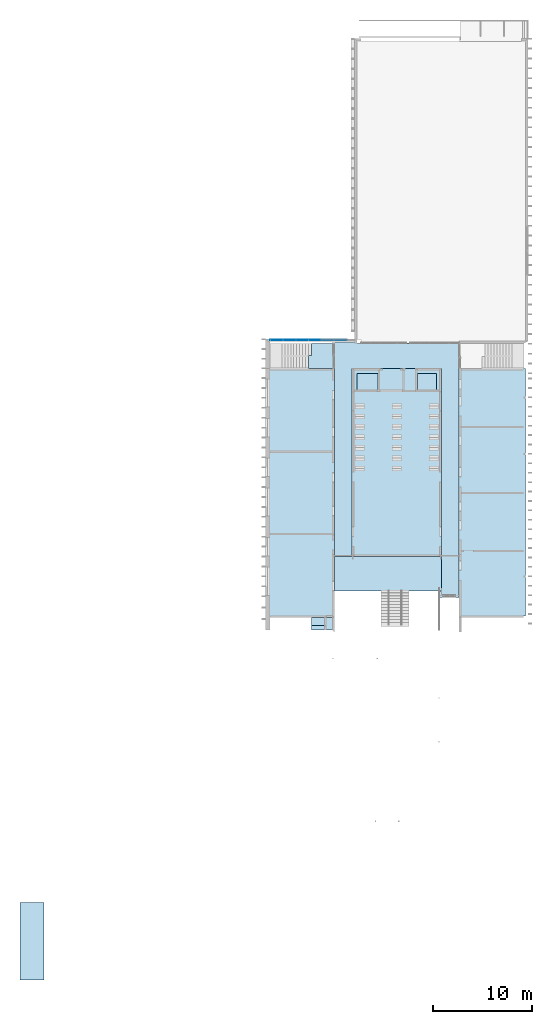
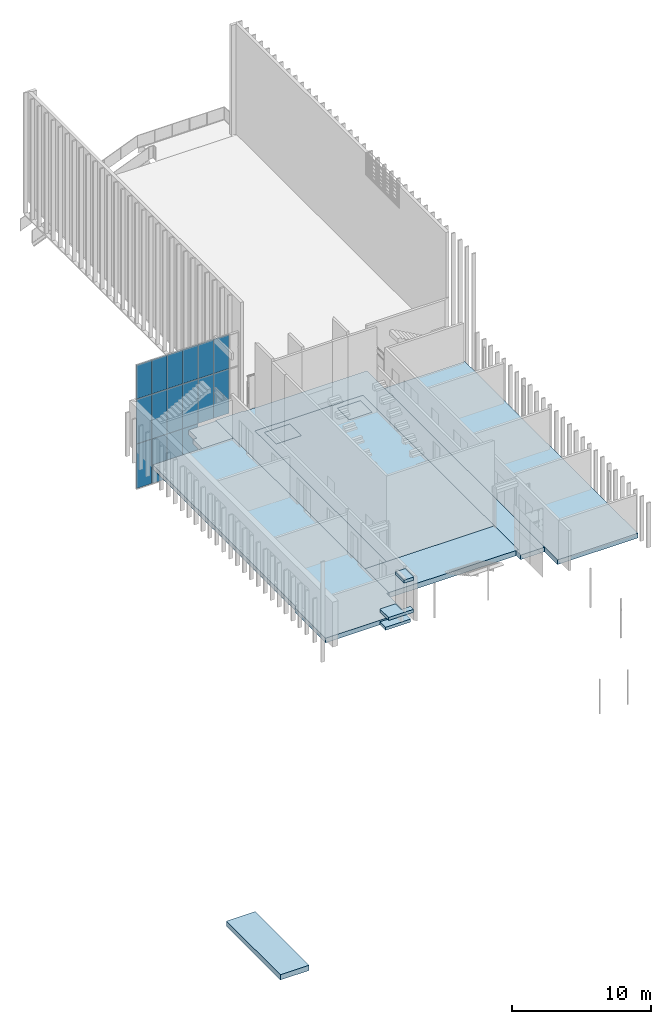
# One storey, part 9 of 62: 16 plates, 12 slabs, 2 openings, 1 element without a shape of its own.
"""IFC2X3 building model written with IfcOpenShell, lengths in millimetres."""

from ifc_helpers import new_model, entity, si_unit, converted_unit, derived_unit, money_unit, direction, frame, origin_with_axes, place, context, subcontext, project, spatial, polyline, outline, extrude, material, layer, layer_set, layer_usage, type_object, element, aggregate, save


model = new_model("IFC2X3")

# Units and contexts
model_context = context("Model", 3, precision=0.01, world=origin_with_axes(), true_north=direction((0.0, 1.0)))
body_context = subcontext(model_context, "Body", "Model", "MODEL_VIEW")
ifc_project = project(units=[si_unit("LENGTHUNIT", "METRE", prefix="MILLI"), si_unit("AREAUNIT", "SQUARE_METRE"), si_unit("VOLUMEUNIT", "CUBIC_METRE"), converted_unit("PLANEANGLEUNIT", "DEGREE", entity("IfcPlaneAngleMeasure", 0.0174532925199), si_unit("PLANEANGLEUNIT", "RADIAN"), dimensions=[0, 0, 0, 0, 0, 0, 0]), si_unit("SOLIDANGLEUNIT", "STERADIAN"), money_unit("EUR"), converted_unit("TIMEUNIT", "Year", entity("IfcTimeMeasure", 31556926.0), si_unit("TIMEUNIT", "SECOND"), dimensions=[0, 0, 1, 0, 0, 0, 0]), si_unit("MASSUNIT", "GRAM", prefix="KILO"), si_unit("THERMODYNAMICTEMPERATUREUNIT", "DEGREE_CELSIUS"), si_unit("LUMINOUSINTENSITYUNIT", "LUMEN"), si_unit("ENERGYUNIT", "JOULE", prefix="MEGA"), derived_unit("THERMALCONDUCTANCEUNIT", [(si_unit("POWERUNIT", "WATT"), 1), (si_unit("LENGTHUNIT", "METRE"), -1), (si_unit("THERMODYNAMICTEMPERATUREUNIT", "KELVIN"), -1)]), derived_unit("SPECIFICHEATCAPACITYUNIT", [(si_unit("ENERGYUNIT", "JOULE"), 1), (si_unit("MASSUNIT", "GRAM", prefix="KILO"), -1), (si_unit("THERMODYNAMICTEMPERATUREUNIT", "KELVIN"), -1)]), derived_unit("MASSDENSITYUNIT", [(si_unit("MASSUNIT", "GRAM", prefix="KILO"), 1), (si_unit("VOLUMEUNIT", "CUBIC_METRE"), -1)])], contexts=[model_context])

# Site, building, storey
site_placement = place(None, origin_with_axes())
site = spatial("IfcSite", under=ifc_project, at=site_placement, Name="Puškini 31, Narva", CompositionType="ELEMENT")
building_placement = place(site_placement, origin_with_axes())
building = spatial("IfcBuilding", under=site, at=building_placement, Name="Narva Riigigümnaasium", CompositionType="ELEMENT")
storey_placement = place(building_placement, frame((0.0, 0.0, 660.0), z_axis=(0.0, 0.0, 1.0), x_axis=(1.0, 0.0, 0.0)))
storey = spatial("IfcBuildingStorey", under=building, at=storey_placement, Name="2.korrus +0.66", CompositionType="ELEMENT", Elevation=660.0)

# Curtain wall, plates
curtain_wall_type = type_object("IfcCurtainWallType", Name="Curtain Wall Type", PredefinedType="NOTDEFINED")
curtain_wall_placement = place(storey_placement, frame((29287.8078111, 224154.987122, -3960.0), z_axis=(0.0, 0.0, 1.0), x_axis=(1.0, 0.0, 0.0)))
curtain_wall = element("IfcCurtainWall", 1, at=curtain_wall_placement, inside=storey, type_object=curtain_wall_type, Name="G-KLF-05")
ifc_material_1 = material(Name="Klaas")
plate_type_1 = type_object("IfcPlateType", Name="Main Panel 13 x 3940 x 58", PredefinedType="CURTAIN_PANEL")
plate_1_placement = place(curtain_wall_placement, frame((0.0, 0.0, 5940.0), z_axis=(0.0, 0.0, 1.0), x_axis=(1.0, 0.0, 0.0)))
plate_1 = element("IfcPlate", 2, at=plate_1_placement, type_object=plate_type_1, material=ifc_material_1, Name="klaasfassaadi klaas", ObjectType="CURTAIN_PANEL", context=body_context, shape_type="SweptSolid", body=[
    extrude(outline(polyline([(-832.767598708, -1969.99998033), (435.384505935, -1969.99998033), (435.384505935, 1969.99998033), (-832.767657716, 1969.99998033), (-832.767598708, -1969.99998033)])), frame((0.0, -29.0, 0.0), z_axis=(0.0, 1.0, 0.0), x_axis=(1.0, 0.0, 0.0)), (0.0, 0.0, 1.0), 58.0),
])
plate_type_2 = type_object("IfcPlateType", Name="Main Panel 3 x 2985 x 58", PredefinedType="CURTAIN_PANEL")
plate_2_placement = place(curtain_wall_placement, frame((6452.36961959, 0.0, 9435.00001863), z_axis=(0.0, 0.0, 1.0), x_axis=(1.0, 0.0, 0.0)))
plate_2 = element("IfcPlate", 3, at=plate_2_placement, type_object=plate_type_2, material=ifc_material_1, Name="klaasfassaadi klaas", ObjectType="CURTAIN_PANEL", context=body_context, shape_type="SweptSolid", body=[
    extrude(outline(polyline([(-844.391998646, -1480.00002535), (423.775766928, -1480.00002535), (423.775766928, 1505.000027), (-844.391998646, 1505.000027), (-844.391998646, -1480.00002535)])), frame((0.0, -29.0, 0.0), z_axis=(0.0, 1.0, 0.0), x_axis=(1.0, 0.0, 0.0)), (0.0, 0.0, 1.0), 58.0),
])
plate_type_3 = type_object("IfcPlateType", Name="Main Panel 3 x 3940 x 58", PredefinedType="CURTAIN_PANEL")
plate_3_placement = place(curtain_wall_placement, frame((6452.36961704, 0.0, 5940.0), z_axis=(0.0, 0.0, 1.0), x_axis=(1.0, 0.0, 0.0)))
plate_3 = element("IfcPlate", 4, at=plate_3_placement, type_object=plate_type_3, material=ifc_material_1, Name="klaasfassaadi klaas", ObjectType="CURTAIN_PANEL", context=body_context, shape_type="SweptSolid", body=[
    extrude(outline(polyline([(-844.392000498, -1969.99998033), (423.775741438, -1969.99998033), (423.775741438, 1969.99998033), (-844.392000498, 1969.99998033), (-844.392000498, -1969.99998033)])), frame((0.0, -29.0, 0.0), z_axis=(0.0, 1.0, 0.0), x_axis=(1.0, 0.0, 0.0)), (0.0, 0.0, 1.0), 58.0),
])
plate_type_4 = type_object("IfcPlateType", Name="Main Panel 13 x 1470 x 58", PredefinedType="CURTAIN_PANEL")
plate_4_placement = place(curtain_wall_placement, frame((-52.7978955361, 0.0, 2105.0), z_axis=(0.0, 0.0, 1.0), x_axis=(1.0, 0.0, 0.0)))
plate_4 = element("IfcPlate", 5, at=plate_4_placement, type_object=plate_type_4, material=ifc_material_1, Name="klaasfassaadi klaas", ObjectType="CURTAIN_PANEL", context=body_context, shape_type="SweptSolid", body=[
    extrude(outline(polyline([(-779.96976218, -1844.99998033), (488.182401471, -1844.99998033), (488.182401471, 2070.00001967), (-779.96976218, 2070.00001967), (-779.96976218, -1844.99998033)])), frame((0.0, -29.0, 0.0), z_axis=(0.0, 1.0, 0.0), x_axis=(1.0, 0.0, 0.0)), (0.0, 0.0, 1.0), 58.0),
])
plate_type_5 = type_object("IfcPlateType", Name="Main Panel 13 x 2985 x 58", PredefinedType="CURTAIN_PANEL")
plate_5_placement = place(curtain_wall_placement, frame((1.14752687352e-05, 0.0, 9435.00001863), z_axis=(0.0, 0.0, 1.0), x_axis=(1.0, 0.0, 0.0)))
plate_5 = element("IfcPlate", 6, at=plate_5_placement, type_object=plate_type_5, material=ifc_material_1, Name="klaasfassaadi klaas", ObjectType="CURTAIN_PANEL", context=body_context, shape_type="SweptSolid", body=[
    extrude(outline(polyline([(-832.767575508, -1480.00002535), (435.38452282, -1480.00002535), (435.38447767, 1505.000027), (-832.767575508, 1505.000027), (-832.767575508, -1480.00002535)])), frame((0.0, -29.0, 0.0), z_axis=(0.0, 1.0, 0.0), x_axis=(1.0, 0.0, 0.0)), (0.0, 0.0, 1.0), 58.0),
])
plate_type_6 = type_object("IfcPlateType", Name="Main Panel 1268 x 3940 x 58", PredefinedType="CURTAIN_PANEL")
plate_6_placement = place(curtain_wall_placement, frame((5166.93211816, 0.0, 5940.0), z_axis=(0.0, 0.0, 1.0), x_axis=(1.0, 0.0, 0.0)))
plate_6 = element("IfcPlate", 7, at=plate_6_placement, type_object=plate_type_6, material=ifc_material_1, Name="klaasfassaadi klaas", ObjectType="CURTAIN_PANEL", context=body_context, shape_type="SweptSolid", body=[
    extrude(outline(polyline([(-847.091111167, -1969.99998033), (421.045474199, -1969.99998033), (421.045474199, 1969.99998033), (-847.091111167, 1969.99998033), (-847.091111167, -1969.99998033)])), frame((0.0, -29.0, 0.0), z_axis=(0.0, 1.0, 0.0), x_axis=(1.0, 0.0, 0.0)), (0.0, 0.0, 1.0), 58.0),
])
plate_7_placement = place(curtain_wall_placement, frame((3665.76492681, 0.0, 5940.0), z_axis=(0.0, 0.0, 1.0), x_axis=(1.0, 0.0, 0.0)))
plate_7 = element("IfcPlate", 8, at=plate_7_placement, type_object=plate_type_6, material=ifc_material_1, Name="klaasfassaadi klaas", ObjectType="CURTAIN_PANEL", context=body_context, shape_type="SweptSolid", body=[
    extrude(outline(polyline([(-634.07604915, -1969.99998033), (634.076055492, -1969.99998033), (634.076055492, 1969.99998033), (-634.07604915, 1969.99998033), (-634.07604915, -1969.99998033)])), frame((0.0, -29.0, 0.0), z_axis=(0.0, 1.0, 0.0), x_axis=(1.0, 0.0, 0.0)), (0.0, 0.0, 1.0), 58.0),
])
plate_type_7 = type_object("IfcPlateType", Name="Main Panel 1268 x 2985 x 58", PredefinedType="CURTAIN_PANEL")
plate_8_placement = place(curtain_wall_placement, frame((3665.76492229, 0.0, 9435.00001863), z_axis=(0.0, 0.0, 1.0), x_axis=(1.0, 0.0, 0.0)))
plate_8 = element("IfcPlate", 9, at=plate_8_placement, type_object=plate_type_7, material=ifc_material_1, Name="klaasfassaadi klaas", ObjectType="CURTAIN_PANEL", context=body_context, shape_type="SweptSolid", body=[
    extrude(outline(polyline([(-634.076072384, -1480.00002535), (634.076071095, -1480.00002535), (634.076071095, 1505.000027), (-634.076072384, 1505.000027), (-634.076072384, -1480.00002535)])), frame((0.0, -29.0, 0.0), z_axis=(0.0, 1.0, 0.0), x_axis=(1.0, 0.0, 0.0)), (0.0, 0.0, 1.0), 58.0),
])
plate_9_placement = place(curtain_wall_placement, frame((5166.93211426, 0.0, 9435.00001863), z_axis=(0.0, 0.0, 1.0), x_axis=(1.0, 0.0, 0.0)))
plate_9 = element("IfcPlate", 10, at=plate_9_placement, type_object=plate_type_7, material=ifc_material_1, Name="klaasfassaadi klaas", ObjectType="CURTAIN_PANEL", context=body_context, shape_type="SweptSolid", body=[
    extrude(outline(polyline([(-847.091111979, -1480.00002535), (421.045499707, -1480.00002535), (421.045499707, 1505.000027), (-847.091111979, 1505.000027), (-847.091111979, -1480.00002535)])), frame((0.0, -29.0, 0.0), z_axis=(0.0, 1.0, 0.0), x_axis=(1.0, 0.0, 0.0)), (0.0, 0.0, 1.0), 58.0),
])
plate_type_8 = type_object("IfcPlateType", Name="Main Panel 11 x 2985 x 58", PredefinedType="CURTAIN_PANEL")
plate_10_placement = place(curtain_wall_placement, frame((1297.15165592, 0.0, 9435.00001863), z_axis=(0.0, 0.0, 1.0), x_axis=(1.0, 0.0, 0.0)))
plate_10 = element("IfcPlate", 11, at=plate_10_placement, type_object=plate_type_8, material=ifc_material_1, Name="klaasfassaadi klaas", ObjectType="CURTAIN_PANEL", context=body_context, shape_type="SweptSolid", body=[
    extrude(outline(polyline([(-841.767115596, -1480.00002535), (426.384982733, -1480.00002535), (426.385027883, 1505.000027), (-841.767160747, 1505.000027), (-841.767115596, -1480.00002535)])), frame((0.0, -29.0, 0.0), z_axis=(0.0, 1.0, 0.0), x_axis=(1.0, 0.0, 0.0)), (0.0, 0.0, 1.0), 58.0),
])
plate_type_9 = type_object("IfcPlateType", Name="Main Panel 9 x 2985 x 58", PredefinedType="CURTAIN_PANEL")
plate_11_placement = place(curtain_wall_placement, frame((2585.97000376, 0.0, 9435.00001863), z_axis=(0.0, 0.0, 1.0), x_axis=(1.0, 0.0, 0.0)))
plate_11 = element("IfcPlate", 12, at=plate_11_placement, type_object=plate_type_9, material=ifc_material_1, Name="klaasfassaadi klaas", ObjectType="CURTAIN_PANEL", context=body_context, shape_type="SweptSolid", body=[
    extrude(outline(polyline([(-842.433369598, -1480.00002535), (425.718864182, -1480.00002535), (425.718864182, 1505.000027), (-842.433324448, 1505.000027), (-842.433369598, -1480.00002535)])), frame((0.0, -29.0, 0.0), z_axis=(0.0, 1.0, 0.0), x_axis=(1.0, 0.0, 0.0)), (0.0, 0.0, 1.0), 58.0),
])
plate_type_10 = type_object("IfcPlateType", Name="Main Panel 9 x 3940 x 58", PredefinedType="CURTAIN_PANEL")
plate_12_placement = place(curtain_wall_placement, frame((2585.97001005, 0.0, 5940.0), z_axis=(0.0, 0.0, 1.0), x_axis=(1.0, 0.0, 0.0)))
plate_12 = element("IfcPlate", 13, at=plate_12_placement, type_object=plate_type_10, material=ifc_material_1, Name="klaasfassaadi klaas", ObjectType="CURTAIN_PANEL", context=body_context, shape_type="SweptSolid", body=[
    extrude(outline(polyline([(-842.433332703, -1969.99998033), (425.718830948, -1969.99998033), (425.718830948, 1969.99998033), (-842.433332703, 1969.99998033), (-842.433332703, -1969.99998033)])), frame((0.0, -29.0, 0.0), z_axis=(0.0, 1.0, 0.0), x_axis=(1.0, 0.0, 0.0)), (0.0, 0.0, 1.0), 58.0),
])
plate_type_11 = type_object("IfcPlateType", Name="Main Panel 11 x 3940 x 58", PredefinedType="CURTAIN_PANEL")
plate_13_placement = place(curtain_wall_placement, frame((1297.15166197, 0.0, 5940.0), z_axis=(0.0, 0.0, 1.0), x_axis=(1.0, 0.0, 0.0)))
plate_13 = element("IfcPlate", 14, at=plate_13_placement, type_object=plate_type_11, material=ifc_material_1, Name="klaasfassaadi klaas", ObjectType="CURTAIN_PANEL", context=body_context, shape_type="SweptSolid", body=[
    extrude(outline(polyline([(-841.767164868, -1969.99998033), (426.384998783, -1969.99998033), (426.384998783, 1969.99998033), (-841.767164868, 1969.99998033), (-841.767164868, -1969.99998033)])), frame((0.0, -29.0, 0.0), z_axis=(0.0, 1.0, 0.0), x_axis=(1.0, 0.0, 0.0)), (0.0, 0.0, 1.0), 58.0),
])
plate_type_12 = type_object("IfcPlateType", Name="Main Panel 9 x 1470 x 58", PredefinedType="CURTAIN_PANEL")
plate_14_placement = place(curtain_wall_placement, frame((2533.88070094, 0.0, 2105.0), z_axis=(0.0, 0.0, 1.0), x_axis=(1.0, 0.0, 0.0)))
plate_14 = element("IfcPlate", 15, at=plate_14_placement, type_object=plate_type_12, material=ifc_material_1, Name="klaasfassaadi klaas", ObjectType="CURTAIN_PANEL", context=body_context, shape_type="SweptSolid", body=[
    extrude(outline(polyline([(-790.344023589, -1844.99998033), (477.808140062, -1844.99998033), (477.808140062, 2070.00001967), (-790.344023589, 2070.00001967), (-790.344023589, -1844.99998033)])), frame((0.0, -29.0, 0.0), z_axis=(0.0, 1.0, 0.0), x_axis=(1.0, 0.0, 0.0)), (0.0, 0.0, 1.0), 58.0),
])
plate_type_13 = type_object("IfcPlateType", Name="Main Panel 11 x 1470 x 58", PredefinedType="CURTAIN_PANEL")
plate_15_placement = place(curtain_wall_placement, frame((1245.22890242, 0.0, 2105.0), z_axis=(0.0, 0.0, 1.0), x_axis=(1.0, 0.0, 0.0)))
plate_15 = element("IfcPlate", 16, at=plate_15_placement, type_object=plate_type_13, material=ifc_material_1, Name="klaasfassaadi klaas", ObjectType="CURTAIN_PANEL", context=body_context, shape_type="SweptSolid", body=[
    extrude(outline(polyline([(-789.844405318, -1844.99998033), (478.307758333, -1844.99998033), (478.307758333, 2070.00001967), (-789.844405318, 2070.00001967), (-789.844405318, -1844.99998033)])), frame((0.0, -29.0, 0.0), z_axis=(0.0, 1.0, 0.0), x_axis=(1.0, 0.0, 0.0)), (0.0, 0.0, 1.0), 58.0),
])
plate_type_14 = type_object("IfcPlateType", Name="Main Panel 1268 x 1470 x 58", PredefinedType="CURTAIN_PANEL")
plate_16_placement = place(curtain_wall_placement, frame((3757.77579855, 0.0, 2182.85748134), z_axis=(0.0, 0.0, 1.0), x_axis=(1.0, 0.0, 0.0)))
plate_16 = element("IfcPlate", 17, at=plate_16_placement, type_object=plate_type_14, material=ifc_material_1, Name="klaasfassaadi klaas", ObjectType="CURTAIN_PANEL", context=body_context, shape_type="SweptSolid", body=[
    extrude(outline(polyline([(-726.086920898, -1767.14249899), (542.065183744, -1767.14249899), (542.065183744, 2147.85750101), (-726.086920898, 2147.85750101), (-726.086920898, -1767.14249899)])), frame((0.0, -29.0, 0.0), z_axis=(0.0, 1.0, 0.0), x_axis=(1.0, 0.0, 0.0)), (0.0, 0.0, 1.0), 58.0),
])
aggregate(curtain_wall, [plate_1, plate_2, plate_3, plate_4, plate_5, plate_6, plate_8, plate_9, plate_10, plate_11, plate_12, plate_7, plate_13, plate_14, plate_15, plate_16])

# Slabs
ifc_material_2 = material(Name="KON-04_Betoon - Konstuktsioon")
ifc_layer_1 = layer(ifc_material_2, 90.0, ventilated="UNKNOWN")
ifc_material_3 = material(Name="SOJ-04_Soojustus - Mineraal Kõva")
ifc_layer_2 = layer(ifc_material_3, 30.0, ventilated="UNKNOWN")
ifc_material_4 = material(Name="SOJ-06_Soojustus - Plastik Kõva")
ifc_layer_3 = layer(ifc_material_4, 20.0, ventilated="UNKNOWN")
ifc_material_5 = material(Name="Betoon element")
ifc_layer_4 = layer(ifc_material_5, 265.0, ventilated="UNKNOWN")
ifc_layer_set_1 = layer_set([ifc_layer_1, ifc_layer_2, ifc_layer_3, ifc_layer_4], Name="G-VL-02*")
ifc_layer_usage_1 = layer_usage(ifc_layer_set_1, "AXIS3", "NEGATIVE", 405.0)
slab_type_1 = type_object("IfcSlabType", Name="G-VL-02* 405", PredefinedType="NOTDEFINED")
slab_1_placement = place(storey_placement, frame((47499.9999936, 223800.000007, 0.0), z_axis=(0.0, 0.0, 1.0), x_axis=(1.0, 0.0, 0.0)))
element("IfcSlab", 18, at=slab_1_placement, inside=storey, type_object=slab_type_1, material=ifc_layer_usage_1, Name="Vahelagi", PredefinedType="NOTDEFINED", context=body_context, shape_type="SweptSolid", body=[
    extrude(outline(polyline([(0.0, 0.0), (-10299.9999936, -7.19921899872e-07), (-10299.9999936, 70.2211847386), (-12600.0008888, 70.2211845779), (-12600.0002573, -21499.999995), (-10799.9999941, -21499.999995), (-10799.9999941, -2520.00000859), (-1799.99999349, -2520.0000087), (-1799.99999411, -24970.5125621), (-1999.99999359, -24970.5125621), (-1999.99999378, -25640.0000074), (-7.67677477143e-07, -25640.0000074), (0.0, 0.0)])), frame((0.0, 0.0, -405.0), z_axis=(0.0, 0.0, 1.0), x_axis=(1.0, 0.0, 0.0)), (0.0, 0.0, 1.0), 405.0),
])
slab_2_placement = place(storey_placement, frame((34899.9991047, 221279.988083, 0.0), z_axis=(0.0, 0.0, 1.0), x_axis=(1.0, 0.0, 0.0)))
element("IfcSlab", 19, at=slab_2_placement, inside=storey, type_object=slab_type_1, material=ifc_layer_usage_1, Name="Vahelagi", PredefinedType="NOTDEFINED", context=body_context, shape_type="SweptSolid", body=[
    extrude(outline(polyline([(0.0, 0.0), (0.000888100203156, 2500.01191648), (-2289.58740021, 2500.01191648), (-2289.58740021, 1310.01191648), (-2590.66962158, 1310.01191648), (-2590.66962158, 0.00474855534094), (0.0, 0.0)])), frame((0.0, 0.0, -405.0), z_axis=(0.0, 0.0, 1.0), x_axis=(1.0, 0.0, 0.0)), (0.0, 0.0, 1.0), 405.0),
])

# Slab, openings
ifc_material_6 = material(Name="Salto-põrandakate")
ifc_layer_5 = layer(ifc_material_6, 10.0, ventilated="UNKNOWN")
ifc_layer_6 = layer(ifc_material_2, 80.0, ventilated="UNKNOWN")
ifc_layer_set_2 = layer_set([ifc_layer_5, ifc_layer_6, ifc_layer_2, ifc_layer_3, ifc_layer_4], Name="G-VL-02")
ifc_layer_usage_2 = layer_usage(ifc_layer_set_2, "AXIS3", "NEGATIVE", 405.0)
slab_type_2 = type_object("IfcSlabType", Name="G-VL-02 405", PredefinedType="NOTDEFINED")
slab_3_placement = place(storey_placement, frame((36699.9999995, 221279.999999, 0.0), z_axis=(0.0, 0.0, 1.0), x_axis=(1.0, 0.0, 0.0)))
slab_3 = element("IfcSlab", 20, at=slab_3_placement, inside=storey, type_object=slab_type_2, material=ifc_layer_usage_2, Name="Vahelagi", PredefinedType="NOTDEFINED", context=body_context, shape_type="SweptSolid", body=[
    extrude(outline(polyline([(0.0, 0.0), (0.0, -18979.9999864), (9000.00000055, -18979.9999864), (9000.00000063, -1.11469944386e-07), (0.0, 0.0)])), frame((0.0, 0.0, -405.0), z_axis=(0.0, 0.0, 1.0), x_axis=(1.0, 0.0, 0.0)), (0.0, 0.0, 1.0), 405.0),
])
opening_1_placement = place(slab_3_placement, frame((500.001009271, -2179.99999313, 0.0), z_axis=(0.0, 0.0, 1.0), x_axis=(1.0, 0.0, 0.0)))
element("IfcOpeningElement", 21, at=opening_1_placement, cuts=slab_3, Name="Slab Opening", context=body_context, shape_type="SweptSolid", body=[
    extrude(outline(polyline([(0.0, 0.0), (2119.99899075, 0.0), (2119.99899073, 1679.99992675), (-1.1159406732e-08, 1679.99998969), (0.0, 0.0)])), frame((0.0, 0.0, -405.0), z_axis=(0.0, 0.0, 1.0), x_axis=(1.0, 0.0, 0.0)), (0.0, 0.0, 1.0), 405.0),
])
opening_2_placement = place(slab_3_placement, frame((8500.00000007, -2179.99999313, 0.0), z_axis=(0.0, 0.0, 1.0), x_axis=(0.0, 1.0, 0.0)))
element("IfcOpeningElement", 22, at=opening_2_placement, cuts=slab_3, Name="Slab Opening", context=body_context, shape_type="SweptSolid", body=[
    extrude(outline(polyline([(0.0, 0.0), (1679.99999435, 0.0), (1679.99999435, 1919.99999944), (0.0, 1919.99999944), (0.0, 0.0)])), frame((0.0, 0.0, -405.0), z_axis=(0.0, 0.0, 1.0), x_axis=(1.0, 0.0, 0.0)), (0.0, 0.0, 1.0), 405.0),
])

# Slabs
slab_4_placement = place(storey_placement, frame((47499.9999935, 196300.000015, 0.0), z_axis=(0.0, 0.0, 1.0), x_axis=(1.0, 0.0, 0.0)))
element("IfcSlab", 23, at=slab_4_placement, inside=storey, type_object=slab_type_2, material=ifc_layer_usage_2, Name="Vahelagi", PredefinedType="NOTDEFINED", context=body_context, shape_type="SweptSolid", body=[
    extrude(outline(polyline([(0.0, 0.0), (6699.99999393, -2.2608190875e-05), (6699.99999393, 24979.9999842), (9.49924583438e-08, 24979.9999842), (0.0, 0.0)])), frame((0.0, 0.0, -405.0), z_axis=(0.0, 0.0, 1.0), x_axis=(1.0, 0.0, 0.0)), (0.0, 0.0, 1.0), 405.0),
])
slab_5_placement = place(storey_placement, frame((28080.8888442, 196500.0, 0.0), z_axis=(0.0, 0.0, 1.0), x_axis=(1.0, 0.0, 0.0)))
element("IfcSlab", 24, at=slab_5_placement, inside=storey, type_object=slab_type_2, material=ifc_layer_usage_2, Name="Vahelagi", PredefinedType="NOTDEFINED", context=body_context, shape_type="SweptSolid", body=[
    extrude(outline(polyline([(-0.0162387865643, -359.433297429), (6619.11115509, -360.22481708), (6619.1111558, 2329.48744549), (6819.1108927, 2329.48744549), (6819.11026053, 24779.9999803), (118.429609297, 24779.9999803), (118.429609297, 4099.99999684), (6.87862566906e-06, 4099.99999684), (-0.0162387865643, -359.433297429)])), frame((0.0, 0.0, -405.0), z_axis=(0.0, 0.0, 1.0), x_axis=(1.0, 0.0, 0.0)), (0.0, 0.0, 1.0), 405.0),
])
ifc_material_7 = material(Name="SKR-02_Kipsplaat")
ifc_layer_7 = layer(ifc_material_7, 20.0, ventilated="UNKNOWN")
ifc_layer_8 = layer(ifc_material_7, 12.5, ventilated="UNKNOWN")
ifc_material_8 = material(Name="SOJ-03_Soojustus - Mineraal Pehme")
ifc_layer_9 = layer(ifc_material_8, 100.0, ventilated="UNKNOWN")
ifc_layer_set_3 = layer_set([ifc_layer_7, ifc_layer_8, ifc_layer_9, ifc_layer_8, ifc_layer_7], Name="G-VL-10")
ifc_layer_usage_3 = layer_usage(ifc_layer_set_3, "AXIS3", "NEGATIVE", 165.0)
slab_type_3 = type_object("IfcSlabType", Name="G-VL-10 165", PredefinedType="NOTDEFINED")
slab_6_placement = place(storey_placement, frame((37200.0010087, 219100.000006, 0.0), z_axis=(0.0, 0.0, 1.0), x_axis=(1.0, 0.0, 0.0)))
element("IfcSlab", 25, at=slab_6_placement, inside=storey, type_object=slab_type_3, material=ifc_layer_usage_3, Name="Knauf isekandev Fireboard-lagi K.219ee", PredefinedType="NOTDEFINED", context=body_context, shape_type="SweptSolid", body=[
    extrude(outline(polyline([(0.0, 0.0), (2119.99899073, 0.0), (2119.99899073, 1679.99992675), (0.0, 1679.99992675), (0.0, 0.0)])), frame((0.0, 0.0, -165.0), z_axis=(0.0, 0.0, 1.0), x_axis=(1.0, 0.0, 0.0)), (0.0, 0.0, 1.0), 165.0),
])
slab_7_placement = place(storey_placement, frame((43280.0000001, 219100.000073, 0.0), z_axis=(0.0, 0.0, 1.0), x_axis=(1.0, 0.0, 0.0)))
element("IfcSlab", 26, at=slab_7_placement, inside=storey, type_object=slab_type_3, material=ifc_layer_usage_3, Name="Knauf isekandev Fireboard-lagi K.219ee", PredefinedType="NOTDEFINED", context=body_context, shape_type="SweptSolid", body=[
    extrude(outline(polyline([(0.0, 0.0), (1919.99999944, 0.0), (1919.99999944, 1679.99992675), (0.0, 1679.99992675), (0.0, 0.0)])), frame((0.0, 0.0, -165.0), z_axis=(0.0, 0.0, 1.0), x_axis=(1.0, 0.0, 0.0)), (0.0, 0.0, 1.0), 165.0),
])
ifc_layer_10 = layer(ifc_material_5, 320.0, ventilated="UNKNOWN")
ifc_layer_set_4 = layer_set([ifc_layer_1, ifc_layer_2, ifc_layer_3, ifc_layer_10], Name="G-VL-04*")
ifc_layer_usage_4 = layer_usage(ifc_layer_set_4, "AXIS3", "NEGATIVE", 460.0)
slab_type_4 = type_object("IfcSlabType", Name="G-VL-04* 460", PredefinedType="NOTDEFINED")
slab_8_placement = place(storey_placement, frame((34899.9997369, 198829.487446, 0.0), z_axis=(0.0, 0.0, 1.0), x_axis=(1.0, 0.0, 0.0)))
element("IfcSlab", 27, at=slab_8_placement, inside=storey, type_object=slab_type_4, material=ifc_layer_usage_4, Name="Vahelagi", PredefinedType="NOTDEFINED", context=body_context, shape_type="SweptSolid", body=[
    extrude(outline(polyline([(0.0, 0.0), (10800.0002631, 0.0), (10800.0002631, 3470.51256673), (0.0, 3470.51256673), (0.0, 0.0)])), frame((0.0, 0.0, -460.0), z_axis=(0.0, 0.0, 1.0), x_axis=(1.0, 0.0, 0.0)), (0.0, 0.0, 1.0), 460.0),
])
ifc_material_9 = material(Name="ET-02_Raudbetoon - Toode")
ifc_layer_11 = layer(ifc_material_9, 265.0, ventilated="UNKNOWN")
ifc_layer_set_5 = layer_set([ifc_layer_11], Name="ET-02_Raudbetoon - Toode 265")
ifc_layer_usage_5 = layer_usage(ifc_layer_set_5, "AXIS3", "NEGATIVE", 265.0)
slab_type_5 = type_object("IfcSlabType", Name="ET-02_Raudbetoon - Toode 265", PredefinedType="NOTDEFINED")
slab_9_placement = place(storey_placement, frame((32609.9998771, 194900.0, 985.0), z_axis=(0.0, 0.0, 1.0), x_axis=(1.0, 0.0, 0.0)))
element("IfcSlab", 28, at=slab_9_placement, inside=storey, type_object=slab_type_5, material=ifc_layer_usage_5, Name="Vahelagi", PredefinedType="NOTDEFINED", context=body_context, shape_type="SweptSolid", body=[
    extrude(outline(polyline([(0.0, 0.0), (2090.00012224, 0.0), (2090.00012224, 439.961271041), (1290.00012294, 440.000002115), (1290.13271324, 1249.99997435), (0.00310785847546, 1250.21115792), (0.0, 0.0)])), frame((0.0, 0.0, -265.0), z_axis=(0.0, 0.0, 1.0), x_axis=(1.0, 0.0, 0.0)), (0.0, 0.0, 1.0), 265.0),
])
slab_10_placement = place(storey_placement, frame((33900.0062926, 194900.0, 3820.0), z_axis=(0.0, 0.0, 1.0), x_axis=(1.0, 0.0, 0.0)))
element("IfcSlab", 29, at=slab_10_placement, inside=storey, type_object=slab_type_5, material=ifc_layer_usage_5, Name="Vahelagi", PredefinedType="NOTDEFINED", context=body_context, shape_type="SweptSolid", body=[
    extrude(outline(polyline([(0.0, 0.0), (799.993706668, 0.0), (799.993706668, 1249.961269), (0.00310747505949, 1250.05692085), (0.0, 0.0)])), frame((0.0, 0.0, -265.0), z_axis=(0.0, 0.0, 1.0), x_axis=(1.0, 0.0, 0.0)), (0.0, 0.0, 1.0), 265.0),
])
slab_11_placement = place(storey_placement, frame((32610.0029952, 196150.211173, -140.0), z_axis=(0.0, 0.0, 1.0), x_axis=(1.0, 0.0, 0.0)))
element("IfcSlab", 30, at=slab_11_placement, inside=storey, type_object=slab_type_5, material=ifc_layer_usage_5, Name="Vahelagi", PredefinedType="NOTDEFINED", context=body_context, shape_type="SweptSolid", body=[
    extrude(outline(polyline([(0.0, 0.0), (-0.00202432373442, -810.211159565), (2089.83167057, -810.211159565), (2089.96424713, -0.34212258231), (0.0, 0.0)])), frame((0.0, 0.0, -265.0), z_axis=(0.0, 0.0, 1.0), x_axis=(1.0, 0.0, 0.0)), (0.0, 0.0, 1.0), 265.0),
])
ifc_material_10 = material(Name="SBS")
ifc_layer_12 = layer(ifc_material_10, 5.0, ventilated="UNKNOWN")
ifc_material_11 = material(Name="Soojustus - EPS")
ifc_layer_13 = layer(ifc_material_11, 150.0, ventilated="UNKNOWN")
ifc_material_12 = material(Name="ET-06_Teras - Konstruktsioon")
ifc_layer_14 = layer(ifc_material_12, 70.0, ventilated="UNKNOWN")
ifc_material_13 = material(Name="VKR-06_Õhkvahe")
ifc_layer_15 = layer(ifc_material_13, 160.0, ventilated="UNKNOWN")
ifc_material_14 = material(Name="Salto-võrk")
ifc_layer_16 = layer(ifc_material_14, 50.0, ventilated="UNKNOWN")
ifc_layer_set_6 = layer_set([ifc_layer_12, ifc_layer_2, ifc_layer_13, ifc_layer_14, ifc_layer_15, ifc_layer_16], Name="G-abihoone katus")
ifc_layer_usage_6 = layer_usage(ifc_layer_set_6, "AXIS3", "NEGATIVE", 465.0)
slab_type_6 = type_object("IfcSlabType", Name="G-abihoone katus 465", PredefinedType="ROOF")
slab_12_placement = place(storey_placement, frame((3151.44900489, 165435.843053, 760.0), z_axis=(0.0, 0.0, 1.0), x_axis=(0.0, -1.0, 0.0)))
element("IfcSlab", 31, at=slab_12_placement, inside=storey, type_object=slab_type_6, material=ifc_layer_usage_6, Name="Katus", PredefinedType="ROOF", context=body_context, shape_type="SweptSolid", body=[
    extrude(outline(polyline([(5850.0, 50.0), (5850.0, 2450.0), (-1950.0, 2450.0), (-1950.0, 50.0), (5850.0, 50.0)])), origin_with_axes(), (0.0, 0.0, 1.0), 465.0),
])

save(model, "model.ifc")
